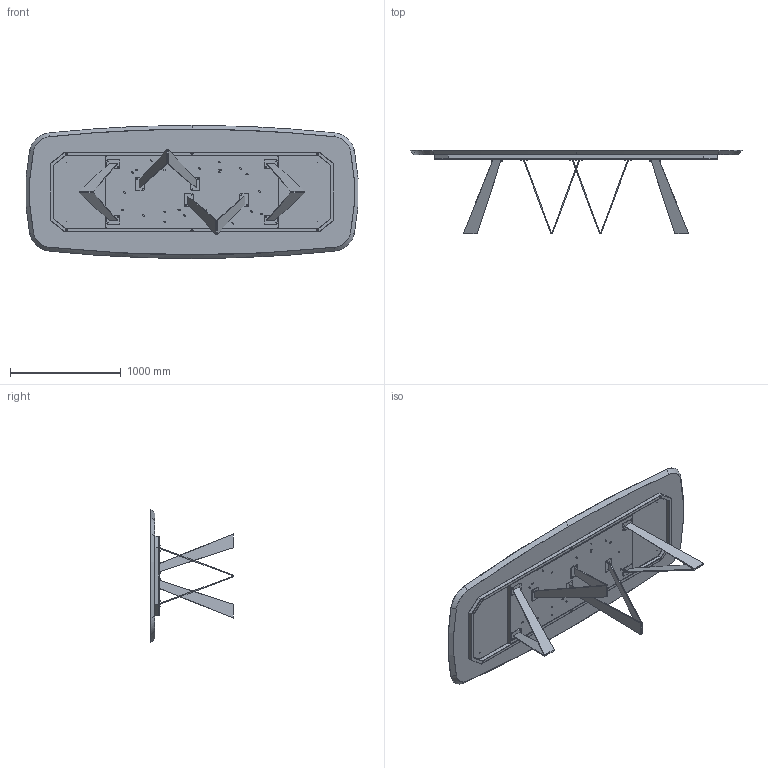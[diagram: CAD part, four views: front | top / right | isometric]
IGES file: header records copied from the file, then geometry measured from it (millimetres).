
Start section: SolidWorks IGES file using analytic representation for surfaces
Global section: file name: Y:\eforma\TECNICO\SOLIDWORKS\E-FORMA\1-TAVOLI\NOA TAVOLO\02 parts\NO44W_Noa_300x120x75h_Wood Shaped.IGS; native system: SolidWorks 2022; preprocessor: SolidWorks 2022; author: eforma.tech; date: 240807.162818; units: millimetre
Bounding box: 2991.72 x 747.8 x 1200 mm (x, y, z)
Volume: 134088091.8 mm3; surface area: 12264725.8 mm2
Topology: 41 solids, 41 shells, 1361 faces, 3234 edges, 1900 vertices
Faces by surface type: revolution 793, plane 568
